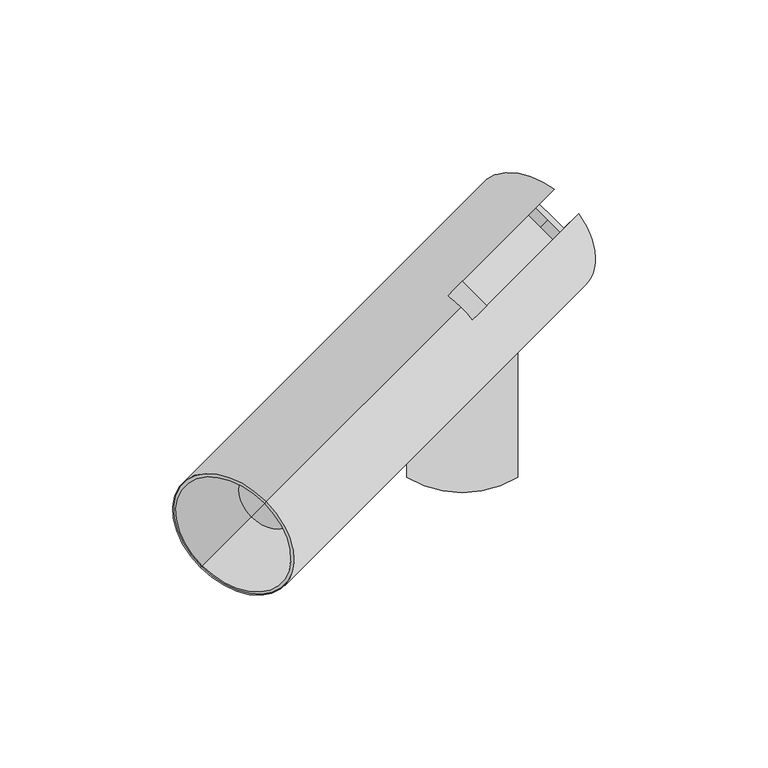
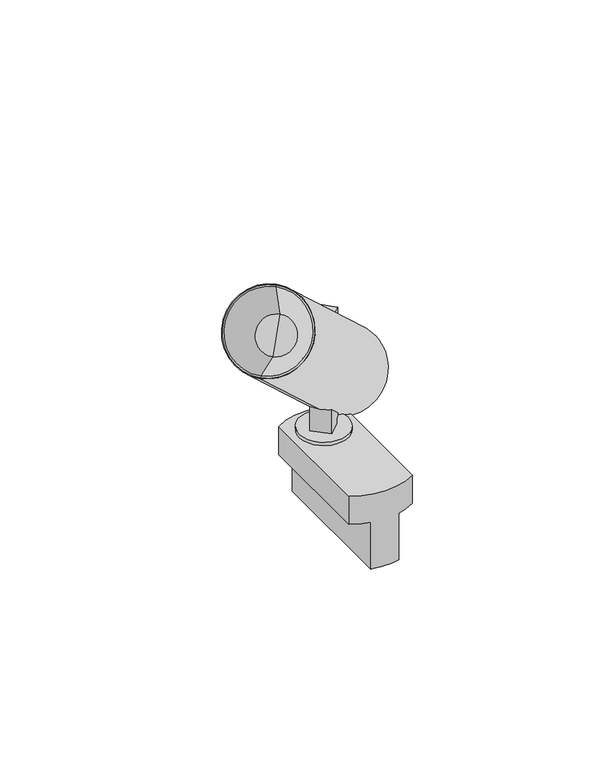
"""IFC4 building model written with IfcOpenShell, lengths in millimetres: light fixture geometry, PIPES T XS : 490lm 7,8W 930 38°."""

from ifc_helpers import new_model, si_unit, point, frame, frame_2d, origin, origin_2d, place, context, project, spatial, polyline, circle_curve, trimmed, segment, composite_curve, outline, extrude, source, transform, mapped, element, save
from ifc_brep_helpers import plane_surface, cylinder_surface, revolved_surface, advanced_brep


def light_fixture_b349a2e9(model_context):
    return source(origin(), model_context, "Body", "SolidModel", [
        extrude(outline(composite_curve([segment(polyline([(-39.7303383, 0.0), (-39.7303383, 7.9999999), (-36.7303383, 7.9999999), (-36.7303383, 10.0), (21.31827, 10.0), (21.31827, 2.0000001)]), True, "CONTINUOUS"), segment(trimmed(circle_curve(frame_2d((15.691322, 2.0000001)), 5.626948), [point((21.31827, 2.0000001))], [point((15.691322, -3.626948))], False, "CARTESIAN"), True, "CONTINUOUS"), segment(polyline([(15.691322, -3.626948), (9.8735653, -3.626948)]), True, "CONTINUOUS"), segment(trimmed(circle_curve(frame_2d((17.7182036, 2.2388678)), 9.7952104), [point((9.8735653, -3.626948))], [point((8.1822916, 0.0))], False, "CARTESIAN"), True, "CONTINUOUS"), segment(polyline([(8.1822916, 0.0), (-39.7303383, 0.0)]), True, "CONTINUOUS")], self_intersect=False)), frame((0.0, -7.0710678, 56.5303383), z_axis=(-0.7071067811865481, 0.707106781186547, 0.0), x_axis=(0.0, 0.0, 1.0)), (0.0, 0.0, 1.0), 10.0),
        extrude(outline(composite_curve([segment(trimmed(circle_curve(origin_2d(), 12.5), [point((8.8388348, -8.8388348))], [point((-8.8388348, 8.8388348))], False, "CARTESIAN"), True, "CONTINUOUS"), segment(trimmed(circle_curve(origin_2d(), 12.5), [point((-8.8388348, 8.8388348))], [point((8.8388348, -8.8388348))], False, "CARTESIAN"), True, "CONTINUOUS")], self_intersect=False)), frame((0.0, 0.0, 15.0), z_axis=(0.0, 0.0, 1.0), x_axis=(1.0, 0.0, 0.0)), (0.0, 0.0, 1.0), 1.8),
        advanced_brep(
        [(-7.1153658, 15.2862846, -25.0), (7.1153658, 15.2862846, -25.0), (7.1153658, -53.3498174, -25.0), (-7.1153658, -53.3498174, -25.0), (-16.1153658, -49.7317664, 15.0), (16.1153658, -49.7317664, 15.0), (16.1153658, 11.6682336, 15.0), (-16.1153658, 11.6682336, 15.0), (-16.1153658, 11.6682336, 0.0), (-16.1153658, -49.7317664, 0.0), (16.1153658, 11.6682336, 0.0), (7.1153658, 15.2862846, 0.0), (-7.1153658, 15.2862846, 0.0), (16.1153658, -49.7317664, 0.0), (-7.1153658, -53.3498174, 0.0), (7.1153658, -53.3498174, 0.0)],
        [
            (0, 1, circle_curve(frame((0.0, -15.4162786, -25.0), z_axis=(0.0, 0.0, -1.0), x_axis=(1.0, 0.0, 0.0)), 31.5162786)),
            (1, 2),
            (2, 3, circle_curve(frame((0.0, -22.6472542, -25.0), z_axis=(0.0, 0.0, -1.0), x_axis=(1.0, 0.0, 0.0)), 31.5162786)),
            (3, 0),
            (4, 5, circle_curve(frame((0.0, -22.6472542, 15.0), z_axis=(0.0, 0.0, 1.0), x_axis=(1.0, 0.0, 0.0)), 31.5162786)),
            (5, 6),
            (6, 7, circle_curve(frame((0.0, -15.4162786, 15.0), z_axis=(0.0, 0.0, 1.0), x_axis=(1.0, 0.0, 0.0)), 31.5162786)),
            (7, 4),
            (7, 8),
            (8, 9),
            (9, 4),
            (6, 10),
            (10, 11, circle_curve(frame((0.0, -15.4162786, 0.0), z_axis=(0.0, 0.0, 1.0), x_axis=(1.0, 0.0, 0.0)), 31.5162786)),
            (11, 1),
            (0, 12),
            (12, 8, circle_curve(frame((0.0, -15.4162786, 0.0), z_axis=(0.0, 0.0, 1.0), x_axis=(1.0, 0.0, 0.0)), 31.5162786)),
            (5, 13),
            (13, 10),
            (9, 14, circle_curve(frame((0.0, -22.6472542, 0.0), z_axis=(0.0, 0.0, 1.0), x_axis=(1.0, 0.0, 0.0)), 31.5162786)),
            (14, 3),
            (2, 15),
            (15, 13, circle_curve(frame((0.0, -22.6472542, 0.0), z_axis=(0.0, 0.0, 1.0), x_axis=(1.0, 0.0, 0.0)), 31.5162786)),
            (12, 14),
            (15, 11),
        ],
        [
            plane_surface(frame((-16.1153658, 11.6883244, -25.0), z_axis=(0.0, 0.0, -1.0), x_axis=(0.0, -1.0, 0.0))),
            plane_surface(frame((-16.1153658, 11.6883244, 15.0), z_axis=(0.0, 0.0, 1.0), x_axis=(0.0, 1.0, 0.0))),
            plane_surface(frame((-16.1153658, -49.7317664, 15.0), z_axis=(-1.0, 0.0, 0.0), x_axis=(0.0, 0.0, -1.0))),
            cylinder_surface(frame((0.0, -15.4162786, -25.0), z_axis=(0.0, 0.0, 1.0), x_axis=(1.0, 0.0, 0.0)), 31.5162786),
            plane_surface(frame((16.1153658, 11.6682336, 15.0), z_axis=(1.0, 0.0, 0.0), x_axis=(0.0, 0.0, -1.0))),
            cylinder_surface(frame((0.0, -22.6472542, -25.0), z_axis=(0.0, 0.0, 1.0), x_axis=(1.0, 0.0, 0.0)), 31.5162786),
            plane_surface(frame((-7.1153658, -58.6979838, 0.0), z_axis=(0.0, 0.0, -1.0), x_axis=(-1.0, 0.0, 0.0))),
            plane_surface(frame((-7.1153658, 21.3020162, 0.0), z_axis=(-1.0, 0.0, 0.0), x_axis=(0.0, 0.0, -1.0))),
            plane_surface(frame((7.1153658, 11.6883244, 0.0), z_axis=(0.0, 0.0, -1.0), x_axis=(0.0, 1.0, 0.0))),
            plane_surface(frame((7.1153658, -58.6979838, 0.0), z_axis=(1.0, 0.0, 0.0), x_axis=(0.0, 0.0, -1.0))),
        ],
        [
            (0, [[1, 2, 3, 4]]),
            (1, [[5, 6, 7, 8]]),
            (2, [[9, 10, 11, -8]]),
            (3, [[12, 13, 14, -1, 15, 16, -9, -7]]),
            (4, [[17, 18, -12, -6]]),
            (5, [[-11, 19, 20, -3, 21, 22, -17, -5]]),
            (6, [[-19, -10, -16, 23]]),
            (7, [[-15, -4, -20, -23]]),
            (8, [[-13, -18, -22, 24]]),
            (9, [[-21, -2, -14, -24]]),
        ],
    ),
        advanced_brep(
        [(-1.4454396, -8.5165074, 72.3837158), (2.8252609, -4.2458069, 79.5815292), (33.7007485, 26.6296807, 42.9426355), (32.7618134, 25.6907456, 41.3601598), (29.511762, 22.4406942, 45.2168854), (26.1799967, 19.1089288, 39.6015477), (-8.5165074, -1.4454396, 72.3837158), (19.1089288, 26.1799967, 39.6015477), (22.4406942, 29.511762, 45.2168854), (25.6907456, 32.7618134, 41.3601598), (26.6296807, 33.7007485, 42.9426355), (-4.2458069, 2.8252609, 79.5815292), (22.6444628, 22.6444628, 39.6015477), (-0.4357787, -0.4357787, 80.0441603), (-56.7700016, -56.7700016, 146.8940717), (11.3498908, 11.3498908, 11.2313999), (-75.8598197, -75.8598197, 114.7202051), (12.2589297, 12.2589297, 12.7634888), (9.0088784, 9.0088784, 16.6202144), (17.6447485, 17.6447485, 31.1750589), (-60.8391139, -60.8391139, 111.2551232), (-56.2939191, -56.2939191, 118.9155676), (-51.7487243, -51.7487243, 126.576012)],
        [
            (0, 1),
            (1, 2),
            (2, 3),
            (3, 4),
            (4, 5),
            (5, 0),
            (6, 7),
            (7, 8),
            (8, 9),
            (9, 10),
            (10, 11),
            (11, 6),
            (5, 12),
            (12, 7),
            (6, 0),
            (11, 13, circle_curve(frame((-9.9806877, -9.9806877, 63.957227), z_axis=(0.5416752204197, 0.5416752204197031, -0.6427876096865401), x_axis=(0.45451947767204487, 0.4545194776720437, 0.7660444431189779)), 21.0)),
            (13, 1, circle_curve(frame((-9.9806877, -9.9806877, 63.957227), z_axis=(0.5416752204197, 0.5416752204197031, -0.6427876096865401), x_axis=(0.45451947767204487, 0.4545194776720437, 0.7660444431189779)), 21.0)),
            (14, 13),
            (10, 15, circle_curve(frame((20.8947998, 20.8947998, 27.3183332), z_axis=(-0.5416752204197, -0.5416752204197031, 0.6427876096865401), x_axis=(0.45451947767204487, 0.4545194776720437, 0.7660444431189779)), 21.0)),
            (15, 16),
            (16, 14, circle_curve(frame((-66.3149107, -66.3149107, 130.8071384), z_axis=(0.5416752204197, 0.5416752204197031, -0.6427876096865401), x_axis=(0.45451947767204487, 0.4545194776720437, 0.7660444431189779)), 21.0)),
            (15, 2, circle_curve(frame((20.8947998, 20.8947998, 27.3183332), z_axis=(-0.5416752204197, -0.5416752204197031, 0.6427876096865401), x_axis=(0.45451947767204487, 0.4545194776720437, 0.7660444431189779)), 21.0)),
            (14, 16, circle_curve(frame((-66.3149107, -66.3149107, 130.8071384), z_axis=(0.5416752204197, 0.5416752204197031, -0.6427876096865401), x_axis=(0.45451947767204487, 0.4545194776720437, 0.7660444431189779)), 21.0)),
            (9, 17, circle_curve(frame((20.8947998, 20.8947998, 27.3183332), z_axis=(-0.5416752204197, -0.5416752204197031, 0.6427876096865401), x_axis=(0.45451947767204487, 0.4545194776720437, 0.7660444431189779)), 19.0)),
            (17, 15),
            (17, 3, circle_curve(frame((20.8947998, 20.8947998, 27.3183332), z_axis=(-0.5416752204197, -0.5416752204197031, 0.6427876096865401), x_axis=(0.45451947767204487, 0.4545194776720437, 0.7660444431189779)), 19.0)),
            (8, 18, circle_curve(frame((17.6447485, 17.6447485, 31.1750589), z_axis=(-0.5416752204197, -0.5416752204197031, 0.6427876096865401), x_axis=(0.45451947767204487, 0.4545194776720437, 0.7660444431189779)), 19.0)),
            (18, 17),
            (18, 4, circle_curve(frame((17.6447485, 17.6447485, 31.1750589), z_axis=(-0.5416752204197, -0.5416752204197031, 0.6427876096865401), x_axis=(0.45451947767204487, 0.4545194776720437, 0.7660444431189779)), 19.0)),
            (12, 19),
            (19, 18),
            (20, 21),
            (21, 22),
            (22, 20, circle_curve(frame((-56.2939191, -56.2939191, 118.9155676), z_axis=(-0.5416752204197, -0.5416752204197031, 0.6427876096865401), x_axis=(0.45451947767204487, 0.4545194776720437, 0.7660444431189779)), 10.0)),
            (20, 22, circle_curve(frame((-56.2939191, -56.2939191, 118.9155676), z_axis=(-0.5416752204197, -0.5416752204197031, 0.6427876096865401), x_axis=(0.45451947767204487, 0.4545194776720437, 0.7660444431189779)), 10.0)),
            (16, 20),
            (22, 14),
        ],
        [
            plane_surface(frame((-1.4454396, -8.5165074, 72.3837158), z_axis=(-0.7071067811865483, 0.707106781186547, 0.0), x_axis=(-0.5416752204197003, -0.541675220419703, 0.6427876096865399))),
            plane_surface(frame((-8.5165074, -1.4454396, 72.3837158), z_axis=(0.7071067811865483, -0.707106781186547, 0.0), x_axis=(0.5416752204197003, 0.541675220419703, -0.6427876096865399))),
            plane_surface(frame((-8.5165074, -1.4454396, 72.3837158), z_axis=(0.4545194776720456, 0.45451947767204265, 0.7660444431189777), x_axis=(0.7071067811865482, -0.7071067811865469, 0.0))),
            plane_surface(frame((0.5738822, 7.64495, 87.7046047), z_axis=(0.5416752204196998, 0.541675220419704, -0.6427876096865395), x_axis=(0.7071067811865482, -0.7071067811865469, 0.0))),
            cylinder_surface(frame((25.4732451, 25.4732451, 21.8852475), z_axis=(0.5416752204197, 0.5416752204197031, -0.6427876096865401), x_axis=(0.45451947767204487, 0.4545194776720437, 0.7660444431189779)), 21.0),
            plane_surface(frame((20.8947998, 20.8947998, 27.3183332), z_axis=(0.5416752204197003, 0.5416752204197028, -0.64278760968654), x_axis=(0.45451947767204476, 0.4545194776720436, 0.7660444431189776))),
            revolved_surface(polyline([(29.530669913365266, 29.53066991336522, 41.873177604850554), (26.28061856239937, 26.280618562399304, 45.72990329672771)]), (25.4732451, 25.4732451, 21.8852475), (0.5416752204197, 0.5416752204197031, -0.6427876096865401)),
            revolved_surface(polyline([(29.530669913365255, 29.53066991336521, 41.87317760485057), (26.28061856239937, 26.280618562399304, 45.72990329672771)]), (25.4732451, 25.4732451, 21.8852475), (0.5416752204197, 0.5416752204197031, -0.6427876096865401)),
            plane_surface(frame((17.6447485, 17.6447485, 31.1750589), z_axis=(0.5416752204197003, 0.5416752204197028, -0.64278760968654), x_axis=(0.45451947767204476, 0.4545194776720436, 0.7660444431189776))),
            plane_surface(frame((-56.2939191, -56.2939191, 118.9155676), z_axis=(-0.5416752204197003, -0.5416752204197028, 0.64278760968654), x_axis=(0.45451947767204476, 0.4545194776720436, 0.7660444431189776))),
            revolved_surface(polyline([(-51.7487243, -51.7487243, 126.576012), (-56.7700016, -56.7700016, 146.8940717)]), (25.4732451, 25.4732451, 21.8852475), (0.5416752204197, 0.5416752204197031, -0.6427876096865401)),
        ],
        [
            (0, [[1, 2, 3, 4, 5, 6]]),
            (1, [[7, 8, 9, 10, 11, 12]]),
            (2, [[-6, 13, 14, -7, 15]]),
            (3, [[-12, 16, 17, -1, -15]]),
            (4, [[18, -16, -11, 19, 20, 21]]),
            (4, [[22, -2, -17, -18, 23, -20]]),
            (5, [[-19, -10, 24, 25]]),
            (5, [[26, -3, -22, -25]]),
            (6, [[-24, -9, 27, 28]]),
            (7, [[29, -4, -26, -28]]),
            (8, [[-27, -8, -14, 30, 31]]),
            (8, [[-30, -13, -5, -29, -31]]),
            (9, [[32, 33, 34]]),
            (9, [[-32, 35, -33]]),
            (10, [[36, -34, 37, -21]]),
            (10, [[-37, -35, -36, -23]]),
        ],
    ),
        advanced_brep(
        [(28.3466975, 21.2756297, 37.0303973), (30.7290277, 23.6579599, 41.0455625), (31.8123781, 24.7413103, 39.7599873), (29.430048, 22.3589802, 35.7448221), (22.3589802, 29.430048, 35.7448221), (24.7413103, 31.8123781, 39.7599873), (23.6579599, 30.7290277, 41.0455625), (21.2756297, 28.3466975, 37.0303973), (25.8945141, 25.8945141, 35.7448221), (24.8111636, 24.8111636, 37.0303973), (19.8114494, 19.8114494, 28.6039084), (12.0875075, 12.0875075, 15.5860223), (13.1708579, 13.1708579, 14.3004471), (20.8947998, 20.8947998, 27.3183332)],
        [
            (0, 1),
            (1, 2),
            (2, 3),
            (3, 0),
            (4, 5),
            (5, 6),
            (6, 7),
            (7, 4),
            (3, 8),
            (8, 4),
            (7, 9),
            (9, 0),
            (10, 9),
            (6, 11, circle_curve(frame((19.8114494, 19.8114494, 28.6039084), z_axis=(-0.5416752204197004, -0.5416752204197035, 0.6427876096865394), x_axis=(0.4545194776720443, 0.45451947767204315, 0.7660444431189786)), 16.9936434)),
            (11, 10),
            (11, 1, circle_curve(frame((19.8114494, 19.8114494, 28.6039084), z_axis=(-0.5416752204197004, -0.5416752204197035, 0.6427876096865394), x_axis=(0.4545194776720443, 0.45451947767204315, 0.7660444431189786)), 16.9936434)),
            (5, 12, circle_curve(frame((20.8947998, 20.8947998, 27.3183332), z_axis=(-0.5416752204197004, -0.5416752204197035, 0.6427876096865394), x_axis=(0.4545194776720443, 0.45451947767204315, 0.7660444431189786)), 16.9936434)),
            (12, 11),
            (12, 2, circle_curve(frame((20.8947998, 20.8947998, 27.3183332), z_axis=(-0.5416752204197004, -0.5416752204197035, 0.6427876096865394), x_axis=(0.4545194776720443, 0.45451947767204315, 0.7660444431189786)), 16.9936434)),
            (8, 13),
            (13, 12),
        ],
        [
            plane_surface(frame((-1.4454396, -8.5165074, 72.3837158), z_axis=(-0.7071067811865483, 0.707106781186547, 0.0), x_axis=(-0.5416752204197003, -0.541675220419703, 0.6427876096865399))),
            plane_surface(frame((-8.5165074, -1.4454396, 72.3837158), z_axis=(0.7071067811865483, -0.707106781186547, 0.0), x_axis=(0.5416752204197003, 0.541675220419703, -0.6427876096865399))),
            plane_surface(frame((-8.5165074, -1.4454396, 72.3837158), z_axis=(0.4545194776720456, 0.45451947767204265, 0.7660444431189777), x_axis=(0.7071067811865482, -0.7071067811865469, 0.0))),
            plane_surface(frame((19.8114494, 19.8114494, 28.6039084), z_axis=(-0.5416752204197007, -0.5416752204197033, 0.6427876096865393), x_axis=(0.4545194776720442, 0.45451947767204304, 0.7660444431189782))),
            cylinder_surface(frame((-50.6321233, -50.6321233, 112.1969066), z_axis=(0.5416752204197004, 0.5416752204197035, -0.6427876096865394), x_axis=(0.4545194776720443, 0.45451947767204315, 0.7660444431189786)), 16.9936434),
            plane_surface(frame((20.8947998, 20.8947998, 27.3183332), z_axis=(0.5416752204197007, 0.5416752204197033, -0.6427876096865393), x_axis=(0.4545194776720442, 0.45451947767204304, 0.7660444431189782))),
        ],
        [
            (0, [[1, 2, 3, 4]]),
            (1, [[5, 6, 7, 8]]),
            (2, [[9, 10, -8, 11, 12, -4]]),
            (3, [[13, -11, -7, 14, 15]]),
            (3, [[16, -1, -12, -13, -15]]),
            (4, [[-14, -6, 17, 18]]),
            (4, [[19, -2, -16, -18]]),
            (5, [[-17, -5, -10, 20, 21]]),
            (5, [[-20, -9, -3, -19, -21]]),
        ],
    ),
        advanced_brep(
        [(-61.1222475, -61.1222475, 112.3336552), (-56.8355943, -56.8355943, 119.5583552), (-52.5489411, -52.5489411, 126.7830552), (-75.3310233, -75.3310233, 115.6114354), (-57.298798, -57.298798, 146.0028414), (-75.8598197, -75.8598197, 114.7202051), (-56.7700016, -56.7700016, 146.8940717), (-60.8391139, -60.8391139, 111.2551232), (-51.7487243, -51.7487243, 126.576012), (-56.2939191, -56.2939191, 118.9155676)],
        [
            (0, 1),
            (1, 2),
            (2, 0, circle_curve(frame((-56.8355943, -56.8355943, 119.5583552), z_axis=(-0.5416752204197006, -0.5416752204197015, 0.6427876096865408), x_axis=(0.45451947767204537, 0.45451947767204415, 0.7660444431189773)), 9.431176)),
            (0, 2, circle_curve(frame((-56.8355943, -56.8355943, 119.5583552), z_axis=(-0.5416752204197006, -0.5416752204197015, 0.6427876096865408), x_axis=(0.45451947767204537, 0.45451947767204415, 0.7660444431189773)), 9.431176)),
            (3, 0),
            (2, 4),
            (4, 3, circle_curve(frame((-66.3149107, -66.3149107, 130.8071384), z_axis=(-0.5416752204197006, -0.5416752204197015, 0.6427876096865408), x_axis=(0.45451947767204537, 0.45451947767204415, 0.7660444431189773)), 19.8365814)),
            (3, 4, circle_curve(frame((-66.3149107, -66.3149107, 130.8071384), z_axis=(-0.5416752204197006, -0.5416752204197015, 0.6427876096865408), x_axis=(0.45451947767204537, 0.45451947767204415, 0.7660444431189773)), 19.8365814)),
            (5, 3),
            (4, 6),
            (6, 5, circle_curve(frame((-66.3149107, -66.3149107, 130.8071384), z_axis=(-0.5416752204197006, -0.5416752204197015, 0.6427876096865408), x_axis=(0.45451947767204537, 0.45451947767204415, 0.7660444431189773)), 21.0)),
            (5, 6, circle_curve(frame((-66.3149107, -66.3149107, 130.8071384), z_axis=(-0.5416752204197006, -0.5416752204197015, 0.6427876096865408), x_axis=(0.45451947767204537, 0.45451947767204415, 0.7660444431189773)), 21.0)),
            (7, 5),
            (6, 8),
            (8, 7, circle_curve(frame((-56.2939191, -56.2939191, 118.9155676), z_axis=(-0.5416752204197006, -0.5416752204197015, 0.6427876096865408), x_axis=(0.45451947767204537, 0.45451947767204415, 0.7660444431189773)), 10.0)),
            (7, 8, circle_curve(frame((-56.2939191, -56.2939191, 118.9155676), z_axis=(-0.5416752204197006, -0.5416752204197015, 0.6427876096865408), x_axis=(0.45451947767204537, 0.45451947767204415, 0.7660444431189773)), 10.0)),
            (9, 7),
            (8, 9),
        ],
        [
            plane_surface(frame((-56.8355943, -56.8355943, 119.5583552), z_axis=(-0.5416752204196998, -0.5416752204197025, 0.6427876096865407), x_axis=(0.4545194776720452, 0.45451947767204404, 0.766044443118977))),
            revolved_surface(polyline([(-52.5489411, -52.5489411, 126.7830552), (-57.298798, -57.298798, 146.0028414)]), (36.3067495, 36.3067495, 9.0294953), (0.5416752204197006, 0.5416752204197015, -0.6427876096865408)),
            plane_surface(frame((-66.3149107, -66.3149107, 130.8071384), z_axis=(-0.5416752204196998, -0.5416752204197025, 0.6427876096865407), x_axis=(0.4545194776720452, 0.45451947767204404, 0.766044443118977))),
            revolved_surface(polyline([(-56.7700016, -56.7700016, 146.8940717), (-51.7487243, -51.7487243, 126.576012)]), (36.3067495, 36.3067495, 9.0294953), (0.5416752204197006, 0.5416752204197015, -0.6427876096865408)),
            plane_surface(frame((-56.2939191, -56.2939191, 118.9155676), z_axis=(0.5416752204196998, 0.5416752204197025, -0.6427876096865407), x_axis=(0.4545194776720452, 0.45451947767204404, 0.766044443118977))),
        ],
        [
            (0, [[1, 2, 3]]),
            (0, [[-2, -1, 4]]),
            (1, [[5, -3, 6, 7]]),
            (1, [[-6, -4, -5, 8]]),
            (2, [[9, -7, 10, 11]]),
            (2, [[-10, -8, -9, 12]]),
            (3, [[13, -11, 14, 15]]),
            (3, [[-14, -12, -13, 16]]),
            (4, [[17, -15, 18]]),
            (4, [[-18, -16, -17]]),
        ],
    ),
    ])


if __name__ == "__main__":
    model = new_model("IFC4")
    model_context = context("Model", 3, world=origin())
    ifc_project = project(units=[si_unit("LENGTHUNIT", "METRE", prefix="MILLI")], contexts=[model_context])
    site = spatial("IfcSite", under=ifc_project)
    building = spatial("IfcBuilding", under=site)
    placement = place(None, origin())
    light_fixture_shape = light_fixture_b349a2e9(model_context)
    element("IfcLightFixture", 1, ObjectType="PIPES T XS : 490lm 7,8W 930 38°", at=placement, inside=building, context=model_context, shape_type="MappedRepresentation", body=[
        mapped(light_fixture_shape, transform((0.0, 0.0, 0.0), x_axis=(1.0, 0.0, 0.0), y_axis=(0.0, 1.0, 0.0), z_axis=(0.0, 0.0, 1.0))),
    ])
    save(model, "model.ifc")
